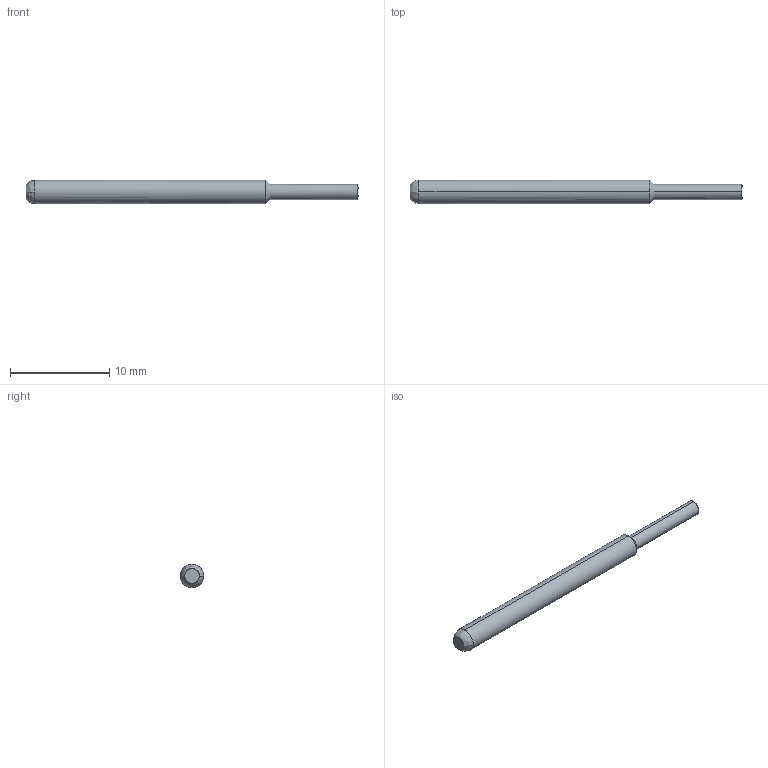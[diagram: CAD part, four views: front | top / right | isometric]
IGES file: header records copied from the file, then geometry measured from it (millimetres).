
Start section: SolidWorks IGES file using analytic representation for surfaces
Global section: file name: \\CODA-VM-SBS\RedirectedFolders\georged\My Documents\CODA CAD FILES\GENERAL PURPOSE TEST PROBES\MEDIUM REACH TEST PROBES\PA6 SERIES\PA6C.IGS; native system: SolidWorks 2024; preprocessor: SolidWorks 2024; author: GeorgeD; date: 250326.120341; units: inch
Bounding box: 33.53 x 2.36 x 2.36 mm (x, y, z)
Surface area: 229.6 mm2 (no closed solid volume)
Topology: 0 solids, 0 shells, 10 faces, 68 edges, 68 vertices
Faces by surface type: bspline 10
